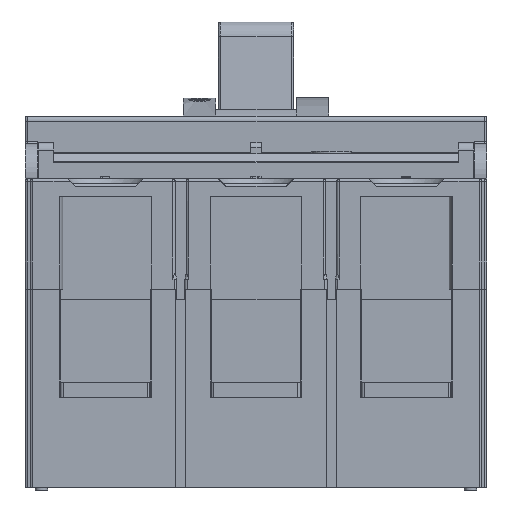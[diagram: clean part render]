
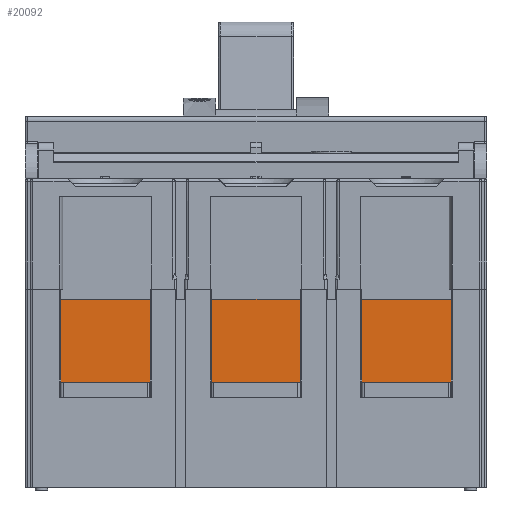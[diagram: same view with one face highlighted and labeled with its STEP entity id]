
A CAD part, front view. The second image highlights one B-rep face of the part: STEP entity #20092.
In plain terms, the highlighted planar face has unit normal (0, -1, 0).
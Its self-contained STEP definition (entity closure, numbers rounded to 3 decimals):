
#378 = LINE ( 'NONE', #112322, #15348 ) ;
#3740 = CARTESIAN_POINT ( 'NONE',  ( 3.5, 18.65, 37.5 ) ) ;
#7093 = ORIENTED_EDGE ( 'NONE', *, *, #133489, .T. ) ;
#9185 = DIRECTION ( 'NONE',  ( 0., 1., 0. ) ) ;
#9912 = VERTEX_POINT ( 'NONE', #3740 ) ;
#15348 = VECTOR ( 'NONE', #123716, 1000. ) ;
#20092 = ADVANCED_FACE ( 'NONE', ( #34340 ), #94395, .F. ) ;
#28048 = ORIENTED_EDGE ( 'NONE', *, *, #113312, .F. ) ;
#28940 = VERTEX_POINT ( 'NONE', #59214 ) ;
#31634 = ORIENTED_EDGE ( 'NONE', *, *, #50212, .T. ) ;
#33964 = DIRECTION ( 'NONE',  ( 1., 0., 0. ) ) ;
#34340 = FACE_OUTER_BOUND ( 'NONE', #123631, .T. ) ;
#45324 = CARTESIAN_POINT ( 'NONE',  ( 3.5, 18.65, 3.5 ) ) ;
#50212 = EDGE_CURVE ( 'NONE', #28940, #108710, #144312, .T. ) ;
#55463 = VECTOR ( 'NONE', #155420, 1000. ) ;
#57953 = CARTESIAN_POINT ( 'NONE',  ( 3.5, 18.65, 37.5 ) ) ;
#59214 = CARTESIAN_POINT ( 'NONE',  ( 3.5, 18.65, 3.5 ) ) ;
#64312 = ORIENTED_EDGE ( 'NONE', *, *, #159036, .F. ) ;
#70135 = LINE ( 'NONE', #57953, #70924 ) ;
#70924 = VECTOR ( 'NONE', #119613, 1000. ) ;
#78165 = CARTESIAN_POINT ( 'NONE',  ( 88.5, 18.65, 3.5 ) ) ;
#91365 = CARTESIAN_POINT ( 'NONE',  ( 3.5, 18.65, 37.5 ) ) ;
#94395 = PLANE ( 'NONE',  #125684 ) ;
#96798 = CARTESIAN_POINT ( 'NONE',  ( 3.5, 18.65, 37.5 ) ) ;
#104584 = CARTESIAN_POINT ( 'NONE',  ( 88.5, 18.65, 37.5 ) ) ;
#108710 = VERTEX_POINT ( 'NONE', #78165 ) ;
#112322 = CARTESIAN_POINT ( 'NONE',  ( 88.5, 18.65, 37.5 ) ) ;
#113312 = EDGE_CURVE ( 'NONE', #9912, #146158, #70135, .T. ) ;
#118491 = VECTOR ( 'NONE', #33964, 1000. ) ;
#119530 = DIRECTION ( 'NONE',  ( 0., 0., 1. ) ) ;
#119613 = DIRECTION ( 'NONE',  ( 1., 0., 0. ) ) ;
#123631 = EDGE_LOOP ( 'NONE', ( #31634, #64312, #28048, #7093 ) ) ;
#123716 = DIRECTION ( 'NONE',  ( 0., 0., -1. ) ) ;
#125684 = AXIS2_PLACEMENT_3D ( 'NONE', #96798, #9185, #119530 ) ;
#133489 = EDGE_CURVE ( 'NONE', #9912, #28940, #154630, .T. ) ;
#144312 = LINE ( 'NONE', #45324, #118491 ) ;
#146158 = VERTEX_POINT ( 'NONE', #104584 ) ;
#154630 = LINE ( 'NONE', #91365, #55463 ) ;
#155420 = DIRECTION ( 'NONE',  ( 0., 0., -1. ) ) ;
#159036 = EDGE_CURVE ( 'NONE', #146158, #108710, #378, .T. ) ;
